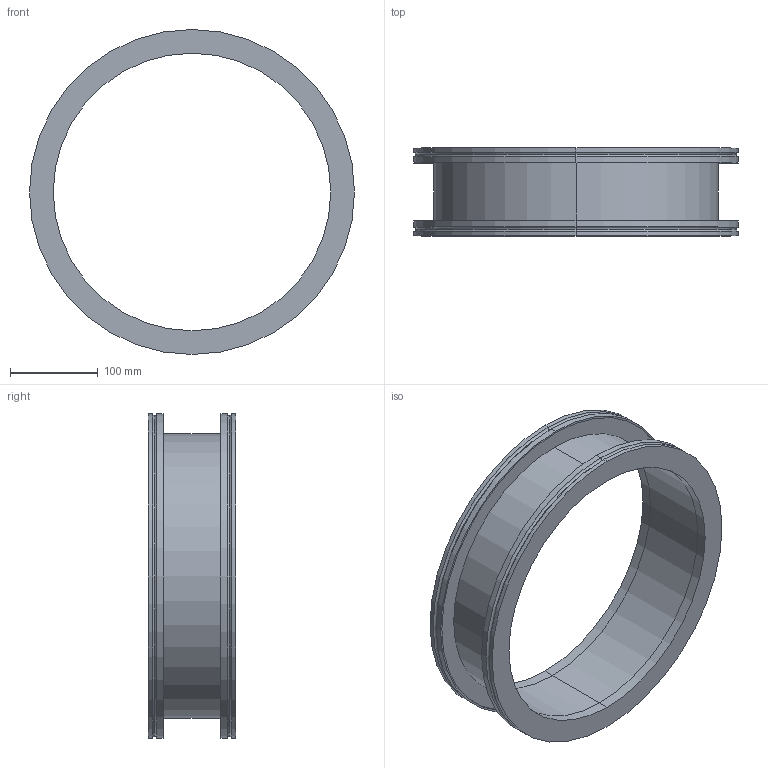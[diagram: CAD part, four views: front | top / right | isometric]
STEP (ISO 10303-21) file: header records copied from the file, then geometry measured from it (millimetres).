
FILE_DESCRIPTION (( 'STEP AP214' ), '1' );
FILE_NAME ('W4ZS320.STEP', '2020-09-23T06:24:21', ( '' ), ( '' ), 'SwSTEP 2.0', 'SolidWorks 2020', '' );
FILE_SCHEMA (( 'AUTOMOTIVE_DESIGN' ));
Length unit declared in the file: millimetre
Products named in the file (1): W4ZS320
Bounding box: 370 x 100 x 370 mm (x, y, z)
Volume: 1142272.6 mm3; surface area: 357896.9 mm2
Topology: 3 solids, 3 shells, 42 faces, 84 edges, 52 vertices
Faces by surface type: cylinder 24, plane 10, torus 8
Entity records: 1176 total; most frequent: DIRECTION 230, CARTESIAN_POINT 179, ORIENTED_EDGE 168, AXIS2_PLACEMENT_3D 103, EDGE_CURVE 84, CIRCLE 60, EDGE_LOOP 52, VERTEX_POINT 52
